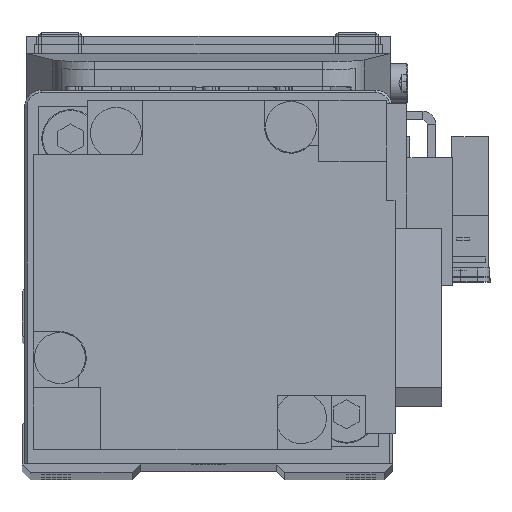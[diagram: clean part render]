
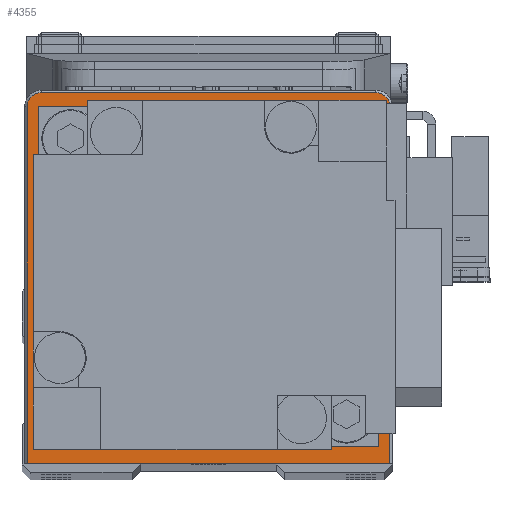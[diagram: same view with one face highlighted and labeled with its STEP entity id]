
A CAD part, top view. The second image highlights one B-rep face of the part: STEP entity #4355.
In plain terms, the highlighted planar face has unit normal (0, 0, 1).
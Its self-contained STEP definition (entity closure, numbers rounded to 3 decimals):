
#993 = ORIENTED_EDGE ( 'NONE', *, *, #15172, .T. ) ;
#1677 = EDGE_CURVE ( 'NONE', #22512, #35434, #25028, .T. ) ;
#3545 = CARTESIAN_POINT ( 'NONE',  ( 21.4, 20., 26.5 ) ) ;
#4051 = EDGE_CURVE ( 'NONE', #6916, #5431, #5761, .T. ) ;
#4229 = DIRECTION ( 'NONE',  ( 1., 0., 0. ) ) ;
#4355 = ADVANCED_FACE ( 'NONE', ( #21651, #33301 ), #7106, .T. ) ;
#4743 = LINE ( 'NONE', #16393, #27084 ) ;
#5377 = VECTOR ( 'NONE', #33430, 1000. ) ;
#5431 = VERTEX_POINT ( 'NONE', #32188 ) ;
#5761 = CIRCLE ( 'NONE', #27115, 1.7 ) ;
#6520 = CARTESIAN_POINT ( 'NONE',  ( 0., 0., 26.5 ) ) ;
#6751 = ORIENTED_EDGE ( 'NONE', *, *, #31999, .F. ) ;
#6916 = VERTEX_POINT ( 'NONE', #3545 ) ;
#7106 = PLANE ( 'NONE',  #30083 ) ;
#8108 = CARTESIAN_POINT ( 'NONE',  ( 19.7, 20., 26.5 ) ) ;
#8557 = AXIS2_PLACEMENT_3D ( 'NONE', #25746, #37424, #11244 ) ;
#8655 = CARTESIAN_POINT ( 'NONE',  ( 10., 0., 26.5 ) ) ;
#9441 = CARTESIAN_POINT ( 'NONE',  ( 21.4, 20., 26.5 ) ) ;
#10133 = LINE ( 'NONE', #21788, #5377 ) ;
#10621 = LINE ( 'NONE', #22287, #18835 ) ;
#11039 = EDGE_CURVE ( 'NONE', #35851, #24029, #11732, .T. ) ;
#11244 = DIRECTION ( 'NONE',  ( 1., 0., 0. ) ) ;
#11323 = DIRECTION ( 'NONE',  ( 0., 0., 1. ) ) ;
#11732 = CIRCLE ( 'NONE', #33084, 10. ) ;
#11963 = CARTESIAN_POINT ( 'NONE',  ( 21.4, -22., 26.5 ) ) ;
#12882 = EDGE_CURVE ( 'NONE', #35434, #30693, #4743, .T. ) ;
#14100 = ORIENTED_EDGE ( 'NONE', *, *, #32264, .T. ) ;
#15172 = EDGE_CURVE ( 'NONE', #30693, #18623, #10621, .T. ) ;
#16393 = CARTESIAN_POINT ( 'NONE',  ( -21.4, -22., 26.5 ) ) ;
#17658 = CARTESIAN_POINT ( 'NONE',  ( -21.4, 20., 26.5 ) ) ;
#18176 = DIRECTION ( 'NONE',  ( 0., 0., 1. ) ) ;
#18487 = VECTOR ( 'NONE', #21089, 1000. ) ;
#18623 = VERTEX_POINT ( 'NONE', #11963 ) ;
#18768 = CARTESIAN_POINT ( 'NONE',  ( 0., 0., 26.5 ) ) ;
#18835 = VECTOR ( 'NONE', #33928, 1000. ) ;
#19781 = DIRECTION ( 'NONE',  ( 0., 0., 1. ) ) ;
#20987 = ORIENTED_EDGE ( 'NONE', *, *, #11039, .F. ) ;
#21089 = DIRECTION ( 'NONE',  ( 0., 1., 0. ) ) ;
#21238 = AXIS2_PLACEMENT_3D ( 'NONE', #37518, #11323, #22992 ) ;
#21651 = FACE_OUTER_BOUND ( 'NONE', #22562, .T. ) ;
#21788 = CARTESIAN_POINT ( 'NONE',  ( -19.7, 21.7, 26.5 ) ) ;
#22287 = CARTESIAN_POINT ( 'NONE',  ( -21.7, -22., 26.5 ) ) ;
#22512 = VERTEX_POINT ( 'NONE', #34185 ) ;
#22562 = EDGE_LOOP ( 'NONE', ( #993, #24041, #24693, #14100, #29002, #27457 ) ) ;
#22992 = DIRECTION ( 'NONE',  ( 1., 0., 0. ) ) ;
#23270 = EDGE_LOOP ( 'NONE', ( #6751, #20987 ) ) ;
#24029 = VERTEX_POINT ( 'NONE', #26561 ) ;
#24041 = ORIENTED_EDGE ( 'NONE', *, *, #26221, .T. ) ;
#24693 = ORIENTED_EDGE ( 'NONE', *, *, #4051, .T. ) ;
#25028 = CIRCLE ( 'NONE', #8557, 1.7 ) ;
#25746 = CARTESIAN_POINT ( 'NONE',  ( -19.7, 20., 26.5 ) ) ;
#26221 = EDGE_CURVE ( 'NONE', #18623, #6916, #35622, .T. ) ;
#26561 = CARTESIAN_POINT ( 'NONE',  ( -10., 0., 26.5 ) ) ;
#27084 = VECTOR ( 'NONE', #28049, 1000. ) ;
#27115 = AXIS2_PLACEMENT_3D ( 'NONE', #8108, #19781, #31441 ) ;
#27457 = ORIENTED_EDGE ( 'NONE', *, *, #12882, .T. ) ;
#28049 = DIRECTION ( 'NONE',  ( 0., -1., 0. ) ) ;
#28288 = CIRCLE ( 'NONE', #21238, 10. ) ;
#28494 = CARTESIAN_POINT ( 'NONE',  ( -21.4, -22., 26.5 ) ) ;
#29002 = ORIENTED_EDGE ( 'NONE', *, *, #1677, .T. ) ;
#29830 = DIRECTION ( 'NONE',  ( 1., 0., 0. ) ) ;
#30083 = AXIS2_PLACEMENT_3D ( 'NONE', #18768, #30416, #4229 ) ;
#30416 = DIRECTION ( 'NONE',  ( 0., 0., 1. ) ) ;
#30693 = VERTEX_POINT ( 'NONE', #28494 ) ;
#31441 = DIRECTION ( 'NONE',  ( 1., 0., 0. ) ) ;
#31999 = EDGE_CURVE ( 'NONE', #24029, #35851, #28288, .T. ) ;
#32188 = CARTESIAN_POINT ( 'NONE',  ( 19.7, 21.7, 26.5 ) ) ;
#32264 = EDGE_CURVE ( 'NONE', #5431, #22512, #10133, .T. ) ;
#33084 = AXIS2_PLACEMENT_3D ( 'NONE', #6520, #18176, #29830 ) ;
#33301 = FACE_BOUND ( 'NONE', #23270, .T. ) ;
#33430 = DIRECTION ( 'NONE',  ( -1., 0., 0. ) ) ;
#33928 = DIRECTION ( 'NONE',  ( 1., 0., 0. ) ) ;
#34185 = CARTESIAN_POINT ( 'NONE',  ( -19.7, 21.7, 26.5 ) ) ;
#35434 = VERTEX_POINT ( 'NONE', #17658 ) ;
#35622 = LINE ( 'NONE', #9441, #18487 ) ;
#35851 = VERTEX_POINT ( 'NONE', #8655 ) ;
#37424 = DIRECTION ( 'NONE',  ( 0., 0., 1. ) ) ;
#37518 = CARTESIAN_POINT ( 'NONE',  ( 0., 0., 26.5 ) ) ;
